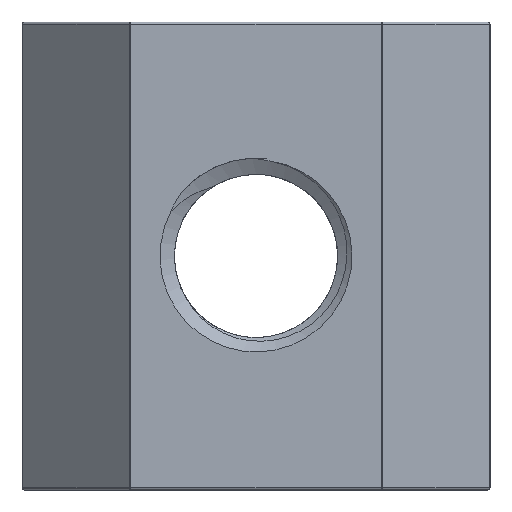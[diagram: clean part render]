
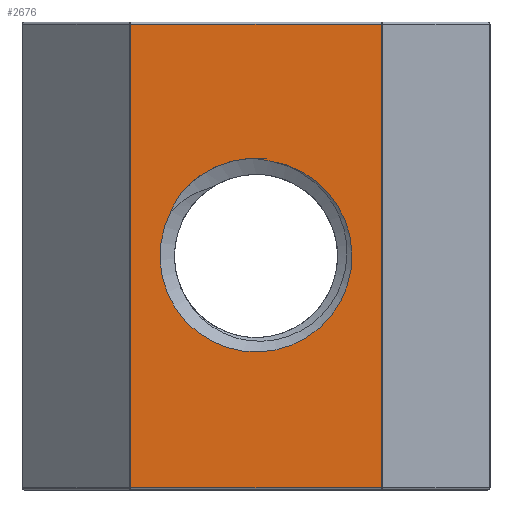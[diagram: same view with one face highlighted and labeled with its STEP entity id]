
A CAD part, front view. The second image highlights one B-rep face of the part: STEP entity #2676.
In plain terms, the highlighted planar face has unit normal (0, -1, 0).
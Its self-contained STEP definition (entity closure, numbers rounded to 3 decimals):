
#16 = CARTESIAN_POINT ( 'NONE',  ( -2.934, -4.75, 2.843 ) ) ;
#184 = ORIENTED_EDGE ( 'NONE', *, *, #1534, .T. ) ;
#223 = VECTOR ( 'NONE', #1049, 1000. ) ;
#278 = CARTESIAN_POINT ( 'NONE',  ( -0.019, -4.75, 4.063 ) ) ;
#363 = CARTESIAN_POINT ( 'NONE',  ( 0.288, -4.75, 4.028 ) ) ;
#407 = B_SPLINE_CURVE_WITH_KNOTS ( 'NONE', 3,
 ( #2758, #4401, #709, #2367 ),
 .UNSPECIFIED., .F., .F.,
 ( 4, 4 ),
 ( 0., 0.001 ),
 .UNSPECIFIED. ) ;
#423 = CARTESIAN_POINT ( 'NONE',  ( -2.324, -4.75, 3.36 ) ) ;
#504 = VERTEX_POINT ( 'NONE', #4624 ) ;
#572 = ORIENTED_EDGE ( 'NONE', *, *, #724, .F. ) ;
#631 = EDGE_LOOP ( 'NONE', ( #1485, #2622, #184, #4679 ) ) ;
#694 = VERTEX_POINT ( 'NONE', #765 ) ;
#697 = FACE_BOUND ( 'NONE', #2710, .T. ) ;
#709 = CARTESIAN_POINT ( 'NONE',  ( -3.429, -4.75, 2.131 ) ) ;
#724 = EDGE_CURVE ( 'NONE', #504, #3189, #4845, .T. ) ;
#736 = CARTESIAN_POINT ( 'NONE',  ( -1.375, -4.75, 3.847 ) ) ;
#765 = CARTESIAN_POINT ( 'NONE',  ( 5.209, -4.75, -9.65 ) ) ;
#810 = FACE_OUTER_BOUND ( 'NONE', #631, .T. ) ;
#836 = CARTESIAN_POINT ( 'NONE',  ( -5.209, -4.75, 9.75 ) ) ;
#852 = CARTESIAN_POINT ( 'NONE',  ( -5.209, -4.75, -9.65 ) ) ;
#904 = VECTOR ( 'NONE', #2148, 1000. ) ;
#1027 = EDGE_CURVE ( 'NONE', #3474, #2408, #3363, .T. ) ;
#1046 = VERTEX_POINT ( 'NONE', #4991 ) ;
#1049 = DIRECTION ( 'NONE',  ( 0., 0., 1. ) ) ;
#1147 = B_SPLINE_CURVE_WITH_KNOTS ( 'NONE', 3,
 ( #3963, #363, #278, #5204 ),
 .UNSPECIFIED., .F., .F.,
 ( 4, 4 ),
 ( 0.006, 0.007 ),
 .UNSPECIFIED. ) ;
#1165 = DIRECTION ( 'NONE',  ( 0., 1., 0. ) ) ;
#1178 = CARTESIAN_POINT ( 'NONE',  ( -0.6, -4.75, 4.041 ) ) ;
#1216 = CARTESIAN_POINT ( 'NONE',  ( 0., -4.75, 0. ) ) ;
#1373 = AXIS2_PLACEMENT_3D ( 'NONE', #1216, #2456, #1568 ) ;
#1485 = ORIENTED_EDGE ( 'NONE', *, *, #4186, .T. ) ;
#1534 = EDGE_CURVE ( 'NONE', #2408, #694, #1639, .T. ) ;
#1568 = DIRECTION ( 'NONE',  ( 0., 0., 1. ) ) ;
#1605 = DIRECTION ( 'NONE',  ( 0., 0., 1. ) ) ;
#1639 = LINE ( 'NONE', #3982, #1955 ) ;
#1881 = VECTOR ( 'NONE', #5173, 1000. ) ;
#1890 = VERTEX_POINT ( 'NONE', #2242 ) ;
#1955 = VECTOR ( 'NONE', #2809, 1000. ) ;
#2148 = DIRECTION ( 'NONE',  ( 0., 0., -1. ) ) ;
#2242 = CARTESIAN_POINT ( 'NONE',  ( -3.544, -4.75, 1.856 ) ) ;
#2250 = LINE ( 'NONE', #3878, #223 ) ;
#2319 = EDGE_CURVE ( 'NONE', #3189, #1890, #407, .T. ) ;
#2367 = CARTESIAN_POINT ( 'NONE',  ( -3.544, -4.75, 1.856 ) ) ;
#2408 = VERTEX_POINT ( 'NONE', #852 ) ;
#2451 = CARTESIAN_POINT ( 'NONE',  ( -1.623, -4.75, 3.749 ) ) ;
#2456 = DIRECTION ( 'NONE',  ( 0., 1., 0. ) ) ;
#2622 = ORIENTED_EDGE ( 'NONE', *, *, #1027, .T. ) ;
#2623 = ORIENTED_EDGE ( 'NONE', *, *, #2319, .F. ) ;
#2676 = ADVANCED_FACE ( 'NONE', ( #810, #697 ), #2772, .F. ) ;
#2710 = EDGE_LOOP ( 'NONE', ( #4928, #5277, #2623, #572 ) ) ;
#2758 = CARTESIAN_POINT ( 'NONE',  ( -3.108, -4.75, 2.638 ) ) ;
#2772 = PLANE ( 'NONE',  #3327 ) ;
#2786 = CARTESIAN_POINT ( 'NONE',  ( -0.865, -4.75, 3.993 ) ) ;
#2809 = DIRECTION ( 'NONE',  ( 1., 0., 0. ) ) ;
#3133 = CARTESIAN_POINT ( 'NONE',  ( 0.588, -4.75, 3.957 ) ) ;
#3189 = VERTEX_POINT ( 'NONE', #4581 ) ;
#3245 = CIRCLE ( 'NONE', #1373, 4. ) ;
#3293 = EDGE_CURVE ( 'NONE', #694, #1046, #2250, .T. ) ;
#3327 = AXIS2_PLACEMENT_3D ( 'NONE', #3666, #1165, #1605 ) ;
#3363 = LINE ( 'NONE', #836, #904 ) ;
#3474 = VERTEX_POINT ( 'NONE', #3688 ) ;
#3666 = CARTESIAN_POINT ( 'NONE',  ( -9.75, -4.75, 9.75 ) ) ;
#3688 = CARTESIAN_POINT ( 'NONE',  ( -5.209, -4.75, 9.65 ) ) ;
#3878 = CARTESIAN_POINT ( 'NONE',  ( 5.209, -4.75, 9.75 ) ) ;
#3963 = CARTESIAN_POINT ( 'NONE',  ( 0.588, -4.75, 3.957 ) ) ;
#3973 = EDGE_CURVE ( 'NONE', #4896, #504, #1147, .T. ) ;
#3982 = CARTESIAN_POINT ( 'NONE',  ( 5.25, -4.75, -9.65 ) ) ;
#4186 = EDGE_CURVE ( 'NONE', #1046, #3474, #4332, .T. ) ;
#4332 = LINE ( 'NONE', #4761, #1881 ) ;
#4401 = CARTESIAN_POINT ( 'NONE',  ( -3.284, -4.75, 2.392 ) ) ;
#4427 = CARTESIAN_POINT ( 'NONE',  ( -2.74, -4.75, 3.03 ) ) ;
#4475 = EDGE_CURVE ( 'NONE', #4896, #1890, #3245, .T. ) ;
#4485 = CARTESIAN_POINT ( 'NONE',  ( -3.108, -4.75, 2.638 ) ) ;
#4581 = CARTESIAN_POINT ( 'NONE',  ( -3.108, -4.75, 2.638 ) ) ;
#4624 = CARTESIAN_POINT ( 'NONE',  ( -0.332, -4.75, 4.063 ) ) ;
#4679 = ORIENTED_EDGE ( 'NONE', *, *, #3293, .T. ) ;
#4761 = CARTESIAN_POINT ( 'NONE',  ( -9.75, -4.75, 9.65 ) ) ;
#4845 = B_SPLINE_CURVE_WITH_KNOTS ( 'NONE', 3,
 ( #5320, #1178, #2786, #736, #2451, #5291, #423, #4427, #16, #4485 ),
 .UNSPECIFIED., .F., .F.,
 ( 4, 2, 2, 2, 4 ),
 ( 0., 0.001, 0.002, 0.002, 0.003 ),
 .UNSPECIFIED. ) ;
#4896 = VERTEX_POINT ( 'NONE', #3133 ) ;
#4928 = ORIENTED_EDGE ( 'NONE', *, *, #3973, .F. ) ;
#4991 = CARTESIAN_POINT ( 'NONE',  ( 5.209, -4.75, 9.65 ) ) ;
#5173 = DIRECTION ( 'NONE',  ( -1., 0., 0. ) ) ;
#5204 = CARTESIAN_POINT ( 'NONE',  ( -0.332, -4.75, 4.063 ) ) ;
#5277 = ORIENTED_EDGE ( 'NONE', *, *, #4475, .T. ) ;
#5291 = CARTESIAN_POINT ( 'NONE',  ( -2.1, -4.75, 3.504 ) ) ;
#5320 = CARTESIAN_POINT ( 'NONE',  ( -0.332, -4.75, 4.063 ) ) ;
